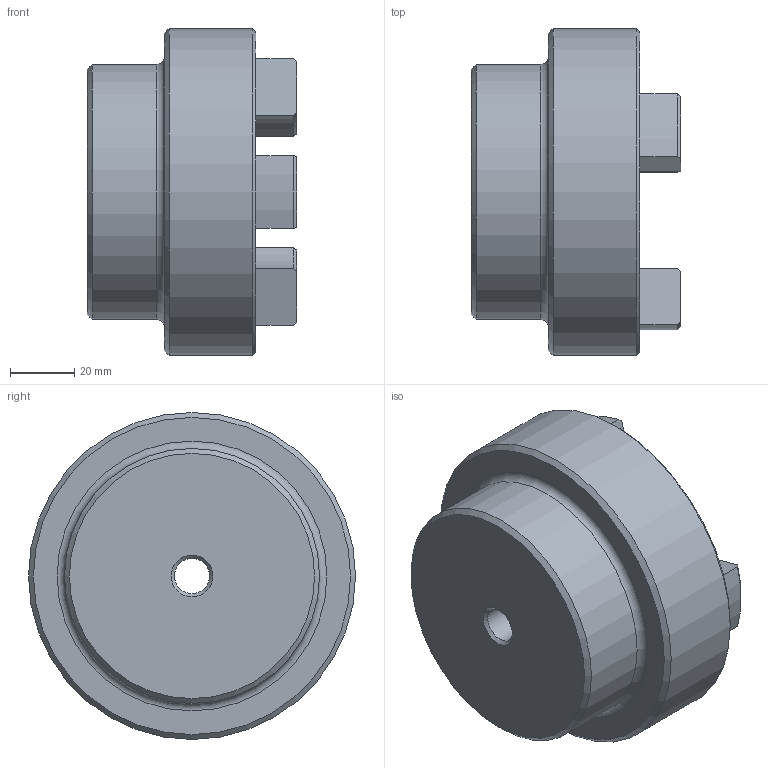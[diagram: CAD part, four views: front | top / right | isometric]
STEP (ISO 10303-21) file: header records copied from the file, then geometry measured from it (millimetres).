
FILE_DESCRIPTION (( 'STEP AP203' ), '1' );
FILE_NAME ('RC4.step', '2024-07-24T17:48:28', ( 'Adlan' ), ( '' ), 'SwSTEP 2.0', 'SolidWorks 2013', '' );
FILE_SCHEMA (( 'CONFIG_CONTROL_DESIGN' ));
Length unit declared in the file: inch
Products named in the file (1): RC4
Bounding box: 65.02 x 101.6 x 101.6 mm (x, y, z)
Volume: 277372.8 mm3; surface area: 39376.8 mm2
Topology: 1 solids, 1 shells, 60 faces, 146 edges, 90 vertices
Faces by surface type: cylinder 24, plane 13, torus 13, cone 10
Full cylindrical faces by diameter (mm): 10.922 x1, 79.248 x1, 101.6 x1
Entity records: 1841 total; most frequent: CARTESIAN_POINT 341, DIRECTION 324, ORIENTED_EDGE 274, EDGE_CURVE 137, AXIS2_PLACEMENT_3D 132, VERTEX_POINT 89, EDGE_LOOP 72, CIRCLE 71
